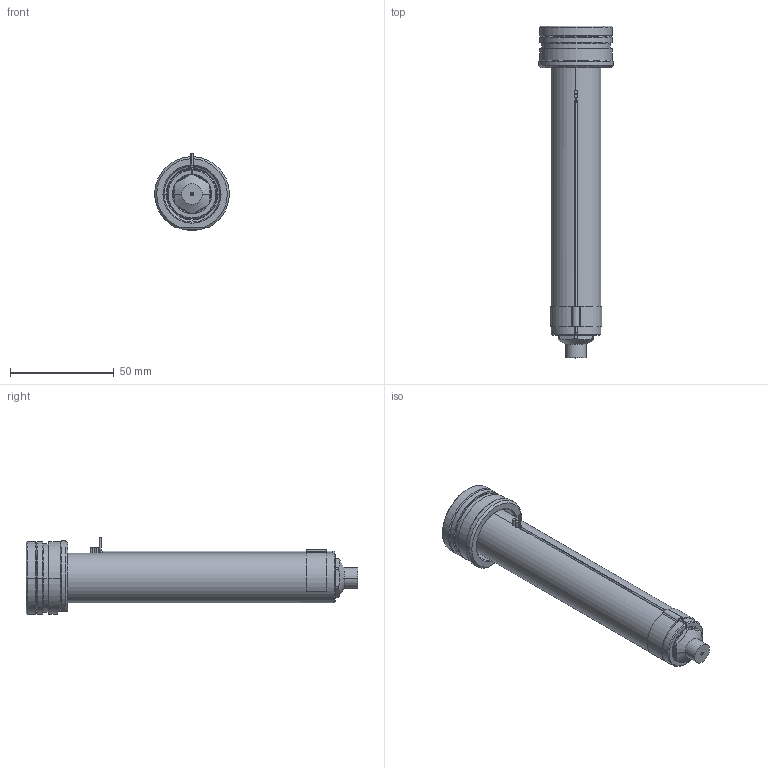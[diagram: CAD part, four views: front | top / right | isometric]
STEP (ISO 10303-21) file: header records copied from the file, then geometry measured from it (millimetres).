
FILE_DESCRIPTION((''),'2;1');
FILE_NAME('EO06_PG-FB_STD_140_SW','2024-02-19T11:26:10',('sundharh'),(''),'CREO PARAMETRIC BY PTC INC, 2023154','CREO PARAMETRIC BY PTC INC, 2023154','');
FILE_SCHEMA(('CONFIG_CONTROL_DESIGN'));
Length unit declared in the file: millimetre
Products named in the file (1): EO06_PG-FB_STD_140_SW
Bounding box: 35.93 x 160 x 37 mm (x, y, z)
Volume: 73105.9 mm3; surface area: 21076.2 mm2
Topology: 2 solids, 2 shells, 210 faces, 564 edges, 346 vertices
Faces by surface type: cylinder 85, plane 55, cone 40, torus 21, bspline 6, sphere 3
Entity records: 7626 total; most frequent: CARTESIAN_POINT 2283, DIRECTION 1177, ORIENTED_EDGE 1112, EDGE_CURVE 556, AXIS2_PLACEMENT_3D 495, VERTEX_POINT 346, CIRCLE 291, EDGE_LOOP 226
